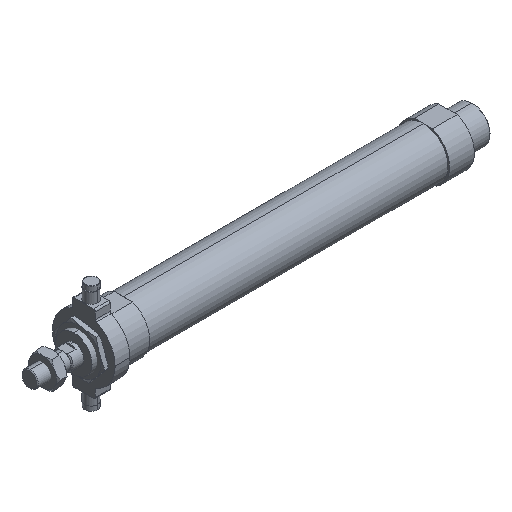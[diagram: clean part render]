
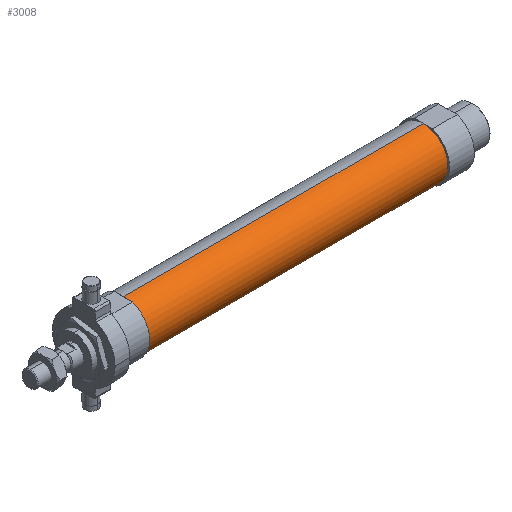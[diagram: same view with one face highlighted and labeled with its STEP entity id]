
A CAD part, isometric view. The second image highlights one B-rep face of the part: STEP entity #3008.
In plain terms, the highlighted cylindrical face has radius 15 mm (diameter 30 mm), a partial arc.
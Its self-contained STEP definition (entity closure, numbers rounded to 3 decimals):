
#29 = FACE_OUTER_BOUND ( 'NONE', #2397, .T. ) ;
#33 = ORIENTED_EDGE ( 'NONE', *, *, #2658, .F. ) ;
#66 = LINE ( 'NONE', #1966, #427 ) ;
#180 = DIRECTION ( 'NONE',  ( 0., 0., 1. ) ) ;
#260 = ORIENTED_EDGE ( 'NONE', *, *, #3581, .F. ) ;
#427 = VECTOR ( 'NONE', #3755, 1000. ) ;
#477 = ORIENTED_EDGE ( 'NONE', *, *, #3127, .T. ) ;
#559 = EDGE_CURVE ( 'NONE', #3322, #4511, #3798, .T. ) ;
#569 = DIRECTION ( 'NONE',  ( -1., 0., 0. ) ) ;
#596 = DIRECTION ( 'NONE',  ( -1., 0., 0. ) ) ;
#737 = CARTESIAN_POINT ( 'NONE',  ( 57., 0., 0. ) ) ;
#971 = AXIS2_PLACEMENT_3D ( 'NONE', #737, #596, #3575 ) ;
#1487 = CARTESIAN_POINT ( 'NONE',  ( 57., 0., -15. ) ) ;
#1642 = DIRECTION ( 'NONE',  ( 0., 0., 1. ) ) ;
#1928 = CARTESIAN_POINT ( 'NONE',  ( 239., 0., 15. ) ) ;
#1966 = CARTESIAN_POINT ( 'NONE',  ( -6.469, 0., -15. ) ) ;
#1995 = VECTOR ( 'NONE', #2319, 1000. ) ;
#2034 = DIRECTION ( 'NONE',  ( -1., 0., 0. ) ) ;
#2280 = CARTESIAN_POINT ( 'NONE',  ( 57., 0., 15. ) ) ;
#2319 = DIRECTION ( 'NONE',  ( -1., 0., 0. ) ) ;
#2397 = EDGE_LOOP ( 'NONE', ( #33, #4426, #477, #260 ) ) ;
#2658 = EDGE_CURVE ( 'NONE', #3322, #3337, #66, .T. ) ;
#2736 = CARTESIAN_POINT ( 'NONE',  ( -6.469, 0., 15. ) ) ;
#2750 = CARTESIAN_POINT ( 'NONE',  ( -6.469, 0., 0. ) ) ;
#2776 = CARTESIAN_POINT ( 'NONE',  ( 239., 0., 0. ) ) ;
#2788 = CIRCLE ( 'NONE', #971, 15. ) ;
#2829 = LINE ( 'NONE', #2736, #1995 ) ;
#3008 = ADVANCED_FACE ( 'NONE', ( #29 ), #3624, .T. ) ;
#3127 = EDGE_CURVE ( 'NONE', #4511, #3647, #2829, .T. ) ;
#3322 = VERTEX_POINT ( 'NONE', #4522 ) ;
#3337 = VERTEX_POINT ( 'NONE', #1487 ) ;
#3469 = AXIS2_PLACEMENT_3D ( 'NONE', #2750, #569, #180 ) ;
#3575 = DIRECTION ( 'NONE',  ( 0., 0., 1. ) ) ;
#3581 = EDGE_CURVE ( 'NONE', #3337, #3647, #2788, .T. ) ;
#3624 = CYLINDRICAL_SURFACE ( 'NONE', #3469, 15. ) ;
#3647 = VERTEX_POINT ( 'NONE', #2280 ) ;
#3755 = DIRECTION ( 'NONE',  ( -1., 0., 0. ) ) ;
#3798 = CIRCLE ( 'NONE', #3879, 15. ) ;
#3879 = AXIS2_PLACEMENT_3D ( 'NONE', #2776, #2034, #1642 ) ;
#4426 = ORIENTED_EDGE ( 'NONE', *, *, #559, .T. ) ;
#4511 = VERTEX_POINT ( 'NONE', #1928 ) ;
#4522 = CARTESIAN_POINT ( 'NONE',  ( 239., 0., -15. ) ) ;
